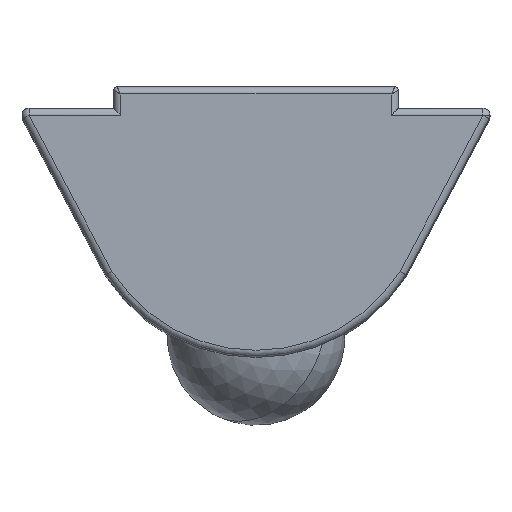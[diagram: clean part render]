
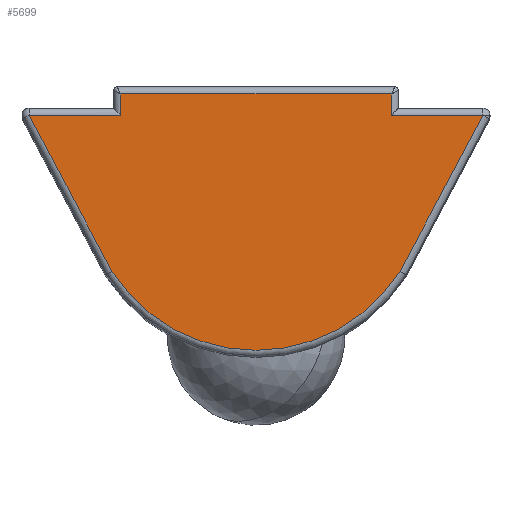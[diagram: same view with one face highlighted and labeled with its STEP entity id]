
A CAD part, top view. The second image highlights one B-rep face of the part: STEP entity #5699.
In plain terms, the highlighted planar face has unit normal (0, 0, 1).
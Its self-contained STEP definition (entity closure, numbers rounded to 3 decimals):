
#250 = EDGE_CURVE ( 'NONE', #5553, #435, #348, .T. ) ;
#348 = LINE ( 'NONE', #3918, #445 ) ;
#355 = LINE ( 'NONE', #4770, #1392 ) ;
#435 = VERTEX_POINT ( 'NONE', #959 ) ;
#445 = VECTOR ( 'NONE', #3004, 1000. ) ;
#480 = DIRECTION ( 'NONE',  ( 0.469, 0.883, 0. ) ) ;
#599 = DIRECTION ( 'NONE',  ( 0., 0., 1. ) ) ;
#620 = VERTEX_POINT ( 'NONE', #1900 ) ;
#628 = CARTESIAN_POINT ( 'NONE',  ( 627.722, 888.252, 1288.645 ) ) ;
#680 = EDGE_CURVE ( 'NONE', #1244, #1624, #1001, .T. ) ;
#797 = CARTESIAN_POINT ( 'NONE',  ( 617.549, 888.852, 1288.645 ) ) ;
#836 = AXIS2_PLACEMENT_3D ( 'NONE', #1935, #1443, #5525 ) ;
#875 = ORIENTED_EDGE ( 'NONE', *, *, #5730, .T. ) ;
#917 = VERTEX_POINT ( 'NONE', #797 ) ;
#959 = CARTESIAN_POINT ( 'NONE',  ( 617.302, 883.872, 1288.645 ) ) ;
#968 = EDGE_CURVE ( 'NONE', #2608, #5553, #3312, .T. ) ;
#1001 = LINE ( 'NONE', #4645, #4088 ) ;
#1244 = VERTEX_POINT ( 'NONE', #2554 ) ;
#1392 = VECTOR ( 'NONE', #3948, 1000. ) ;
#1443 = DIRECTION ( 'NONE',  ( 0., 0., 1. ) ) ;
#1487 = EDGE_LOOP ( 'NONE', ( #875, #4673, #3713, #4026, #2785, #4898, #4348, #2304 ) ) ;
#1624 = VERTEX_POINT ( 'NONE', #2248 ) ;
#1725 = VERTEX_POINT ( 'NONE', #2220 ) ;
#1900 = CARTESIAN_POINT ( 'NONE',  ( 625.397, 883.872, 1288.645 ) ) ;
#1935 = CARTESIAN_POINT ( 'NONE',  ( 621.349, 886.452, 1288.645 ) ) ;
#1967 = EDGE_CURVE ( 'NONE', #1725, #917, #4960, .T. ) ;
#2220 = CARTESIAN_POINT ( 'NONE',  ( 625.149, 888.852, 1288.645 ) ) ;
#2248 = CARTESIAN_POINT ( 'NONE',  ( 625.149, 888.252, 1288.645 ) ) ;
#2258 = CARTESIAN_POINT ( 'NONE',  ( 617.549, 888.452, 1288.645 ) ) ;
#2304 = ORIENTED_EDGE ( 'NONE', *, *, #250, .T. ) ;
#2316 = PLANE ( 'NONE',  #2978 ) ;
#2378 = CARTESIAN_POINT ( 'NONE',  ( 617.549, 888.252, 1288.645 ) ) ;
#2554 = CARTESIAN_POINT ( 'NONE',  ( 627.722, 888.252, 1288.645 ) ) ;
#2608 = VERTEX_POINT ( 'NONE', #2378 ) ;
#2616 = CARTESIAN_POINT ( 'NONE',  ( 627.722, 888.252, 1288.645 ) ) ;
#2669 = CARTESIAN_POINT ( 'NONE',  ( 614.977, 888.252, 1288.645 ) ) ;
#2785 = ORIENTED_EDGE ( 'NONE', *, *, #1967, .T. ) ;
#2787 = VECTOR ( 'NONE', #480, 1000. ) ;
#2835 = DIRECTION ( 'NONE',  ( -1., 0., 0. ) ) ;
#2978 = AXIS2_PLACEMENT_3D ( 'NONE', #628, #599, #3223 ) ;
#3004 = DIRECTION ( 'NONE',  ( 0.469, -0.883, 0. ) ) ;
#3067 = VECTOR ( 'NONE', #4048, 1000. ) ;
#3170 = EDGE_CURVE ( 'NONE', #620, #1244, #4476, .T. ) ;
#3223 = DIRECTION ( 'NONE',  ( 1., 0., 0. ) ) ;
#3285 = CARTESIAN_POINT ( 'NONE',  ( 614.977, 888.252, 1288.645 ) ) ;
#3312 = LINE ( 'NONE', #3285, #3989 ) ;
#3354 = CIRCLE ( 'NONE', #836, 4.8 ) ;
#3425 = EDGE_CURVE ( 'NONE', #1624, #1725, #355, .T. ) ;
#3556 = LINE ( 'NONE', #2258, #3067 ) ;
#3567 = CARTESIAN_POINT ( 'NONE',  ( 617.449, 888.852, 1288.645 ) ) ;
#3700 = FACE_OUTER_BOUND ( 'NONE', #1487, .T. ) ;
#3713 = ORIENTED_EDGE ( 'NONE', *, *, #680, .T. ) ;
#3911 = VECTOR ( 'NONE', #5309, 1000. ) ;
#3918 = CARTESIAN_POINT ( 'NONE',  ( 617.305, 883.865, 1288.645 ) ) ;
#3948 = DIRECTION ( 'NONE',  ( 0., 1., 0. ) ) ;
#3989 = VECTOR ( 'NONE', #4160, 1000. ) ;
#4026 = ORIENTED_EDGE ( 'NONE', *, *, #3425, .T. ) ;
#4048 = DIRECTION ( 'NONE',  ( 0., -1., 0. ) ) ;
#4088 = VECTOR ( 'NONE', #2835, 1000. ) ;
#4160 = DIRECTION ( 'NONE',  ( -1., 0., 0. ) ) ;
#4348 = ORIENTED_EDGE ( 'NONE', *, *, #968, .T. ) ;
#4456 = EDGE_CURVE ( 'NONE', #917, #2608, #3556, .T. ) ;
#4476 = LINE ( 'NONE', #2616, #2787 ) ;
#4645 = CARTESIAN_POINT ( 'NONE',  ( 625.349, 888.252, 1288.645 ) ) ;
#4673 = ORIENTED_EDGE ( 'NONE', *, *, #3170, .T. ) ;
#4770 = CARTESIAN_POINT ( 'NONE',  ( 625.149, 888.952, 1288.645 ) ) ;
#4898 = ORIENTED_EDGE ( 'NONE', *, *, #4456, .T. ) ;
#4960 = LINE ( 'NONE', #3567, #3911 ) ;
#5309 = DIRECTION ( 'NONE',  ( -1., 0., 0. ) ) ;
#5525 = DIRECTION ( 'NONE',  ( 1., 0., 0. ) ) ;
#5553 = VERTEX_POINT ( 'NONE', #2669 ) ;
#5699 = ADVANCED_FACE ( 'NONE', ( #3700 ), #2316, .T. ) ;
#5730 = EDGE_CURVE ( 'NONE', #435, #620, #3354, .T. ) ;
